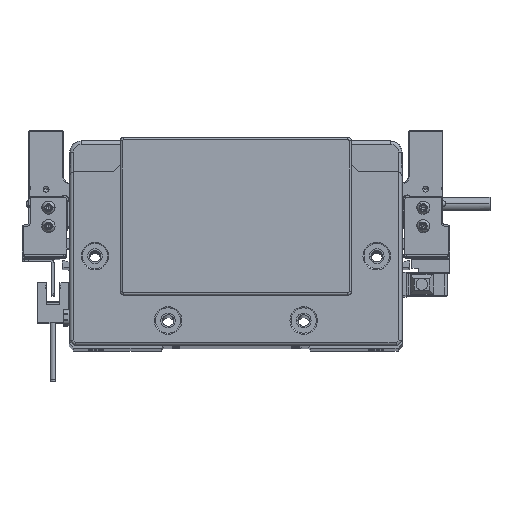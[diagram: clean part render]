
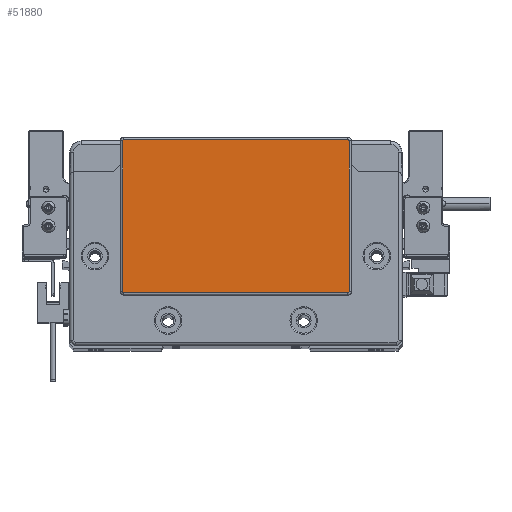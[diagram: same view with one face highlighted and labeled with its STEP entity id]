
A CAD part, top view. The second image highlights one B-rep face of the part: STEP entity #51880.
In plain terms, the highlighted planar face has unit normal (0, 0, 1) as drawn and (0, 0, -1) by its records, which use the part's own axes.
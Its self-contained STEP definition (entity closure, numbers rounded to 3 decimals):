
#1348 = VECTOR ( 'NONE', #66946, 1000. ) ;
#2886 = DIRECTION ( 'NONE',  ( -1., 0., 0. ) ) ;
#4671 = CARTESIAN_POINT ( 'NONE',  ( 49.25, -21.8, -2. ) ) ;
#5091 = ORIENTED_EDGE ( 'NONE', *, *, #22468, .T. ) ;
#5338 = DIRECTION ( 'NONE',  ( -1., 0., 0. ) ) ;
#6134 = EDGE_LOOP ( 'NONE', ( #22217, #83208, #82081, #65566, #44739, #56120, #5091, #31091 ) ) ;
#7095 = DIRECTION ( 'NONE',  ( -1., 0., 0. ) ) ;
#9022 = CARTESIAN_POINT ( 'NONE',  ( 49.25, -21.8, -2. ) ) ;
#9242 = CARTESIAN_POINT ( 'NONE',  ( -48.75, -21.8, -2. ) ) ;
#10539 = AXIS2_PLACEMENT_3D ( 'NONE', #9242, #82129, #2886 ) ;
#11063 = VECTOR ( 'NONE', #79951, 1000. ) ;
#12657 = CARTESIAN_POINT ( 'NONE',  ( -48.75, 44.3, -2. ) ) ;
#13815 = DIRECTION ( 'NONE',  ( -1., 0., 0. ) ) ;
#14578 = AXIS2_PLACEMENT_3D ( 'NONE', #43420, #75890, #83485 ) ;
#20014 = CIRCLE ( 'NONE', #10539, 0.5 ) ;
#22217 = ORIENTED_EDGE ( 'NONE', *, *, #40534, .T. ) ;
#22468 = EDGE_CURVE ( 'NONE', #77811, #69737, #52204, .T. ) ;
#24051 = CIRCLE ( 'NONE', #14578, 0.5 ) ;
#24807 = EDGE_CURVE ( 'NONE', #43843, #77811, #77782, .T. ) ;
#26362 = CIRCLE ( 'NONE', #47952, 0.5 ) ;
#27563 = EDGE_CURVE ( 'NONE', #34807, #43843, #52597, .T. ) ;
#30408 = VECTOR ( 'NONE', #58118, 1000. ) ;
#31091 = ORIENTED_EDGE ( 'NONE', *, *, #79512, .T. ) ;
#31106 = DIRECTION ( 'NONE',  ( 0., 0., -1. ) ) ;
#32224 = VERTEX_POINT ( 'NONE', #63638 ) ;
#32409 = FACE_OUTER_BOUND ( 'NONE', #6134, .T. ) ;
#34807 = VERTEX_POINT ( 'NONE', #71762 ) ;
#34930 = EDGE_CURVE ( 'NONE', #38079, #34807, #20014, .T. ) ;
#35106 = EDGE_CURVE ( 'NONE', #42148, #35182, #24051, .T. ) ;
#35182 = VERTEX_POINT ( 'NONE', #50168 ) ;
#38079 = VERTEX_POINT ( 'NONE', #70033 ) ;
#38346 = PLANE ( 'NONE',  #78138 ) ;
#40534 = EDGE_CURVE ( 'NONE', #32224, #42148, #66912, .T. ) ;
#42148 = VERTEX_POINT ( 'NONE', #4671 ) ;
#43420 = CARTESIAN_POINT ( 'NONE',  ( 48.75, -21.8, -2. ) ) ;
#43843 = VERTEX_POINT ( 'NONE', #83115 ) ;
#44739 = ORIENTED_EDGE ( 'NONE', *, *, #27563, .T. ) ;
#45932 = CARTESIAN_POINT ( 'NONE',  ( 0., 0., -2. ) ) ;
#47952 = AXIS2_PLACEMENT_3D ( 'NONE', #50181, #48934, #75485 ) ;
#48934 = DIRECTION ( 'NONE',  ( 0., 0., -1. ) ) ;
#49304 = CARTESIAN_POINT ( 'NONE',  ( -48.75, 43.8, -2. ) ) ;
#50168 = CARTESIAN_POINT ( 'NONE',  ( 48.75, -22.3, -2. ) ) ;
#50181 = CARTESIAN_POINT ( 'NONE',  ( 48.75, 43.8, -2. ) ) ;
#51371 = CARTESIAN_POINT ( 'NONE',  ( 48.75, 44.3, -2. ) ) ;
#51457 = LINE ( 'NONE', #52703, #73310 ) ;
#51880 = ADVANCED_FACE ( 'NONE', ( #32409 ), #38346, .T. ) ;
#52204 = LINE ( 'NONE', #51371, #30408 ) ;
#52597 = LINE ( 'NONE', #59753, #1348 ) ;
#52703 = CARTESIAN_POINT ( 'NONE',  ( -48.75, -22.3, -2. ) ) ;
#56120 = ORIENTED_EDGE ( 'NONE', *, *, #24807, .T. ) ;
#57607 = AXIS2_PLACEMENT_3D ( 'NONE', #49304, #31106, #5338 ) ;
#58118 = DIRECTION ( 'NONE',  ( 1., 0., 0. ) ) ;
#59753 = CARTESIAN_POINT ( 'NONE',  ( -49.25, 43.8, -2. ) ) ;
#63638 = CARTESIAN_POINT ( 'NONE',  ( 49.25, 43.8, -2. ) ) ;
#65566 = ORIENTED_EDGE ( 'NONE', *, *, #34930, .T. ) ;
#66912 = LINE ( 'NONE', #9022, #11063 ) ;
#66946 = DIRECTION ( 'NONE',  ( 0., 1., 0. ) ) ;
#69737 = VERTEX_POINT ( 'NONE', #82791 ) ;
#70033 = CARTESIAN_POINT ( 'NONE',  ( -48.75, -22.3, -2. ) ) ;
#71678 = DIRECTION ( 'NONE',  ( 0., 0., -1. ) ) ;
#71762 = CARTESIAN_POINT ( 'NONE',  ( -49.25, -21.8, -2. ) ) ;
#73310 = VECTOR ( 'NONE', #7095, 1000. ) ;
#75485 = DIRECTION ( 'NONE',  ( -1., 0., 0. ) ) ;
#75890 = DIRECTION ( 'NONE',  ( 0., 0., -1. ) ) ;
#77782 = CIRCLE ( 'NONE', #57607, 0.5 ) ;
#77811 = VERTEX_POINT ( 'NONE', #12657 ) ;
#78138 = AXIS2_PLACEMENT_3D ( 'NONE', #45932, #71678, #13815 ) ;
#79512 = EDGE_CURVE ( 'NONE', #69737, #32224, #26362, .T. ) ;
#79951 = DIRECTION ( 'NONE',  ( 0., -1., 0. ) ) ;
#82081 = ORIENTED_EDGE ( 'NONE', *, *, #82982, .T. ) ;
#82129 = DIRECTION ( 'NONE',  ( 0., 0., -1. ) ) ;
#82791 = CARTESIAN_POINT ( 'NONE',  ( 48.75, 44.3, -2. ) ) ;
#82982 = EDGE_CURVE ( 'NONE', #35182, #38079, #51457, .T. ) ;
#83115 = CARTESIAN_POINT ( 'NONE',  ( -49.25, 43.8, -2. ) ) ;
#83208 = ORIENTED_EDGE ( 'NONE', *, *, #35106, .T. ) ;
#83485 = DIRECTION ( 'NONE',  ( -1., 0., 0. ) ) ;
